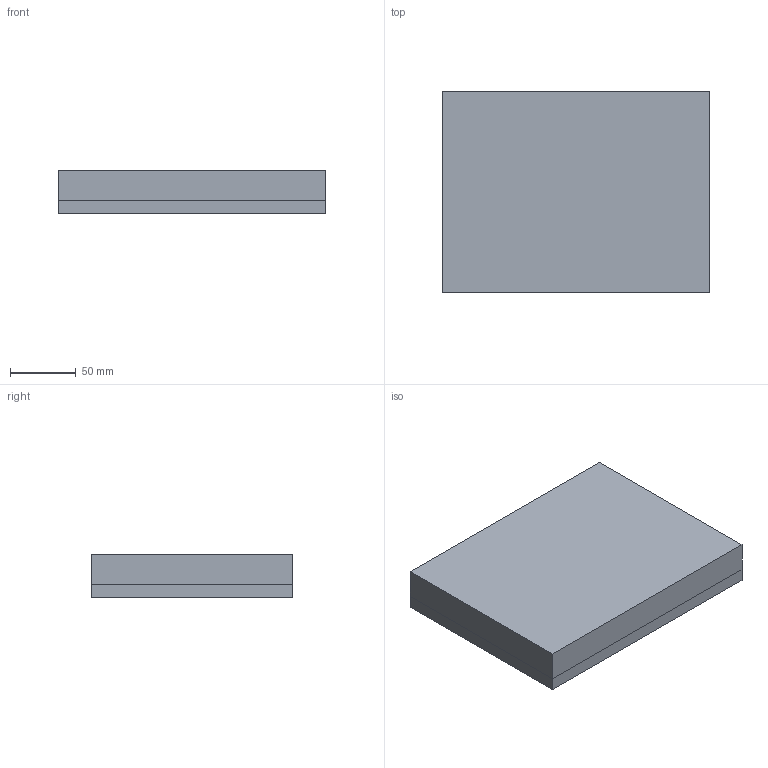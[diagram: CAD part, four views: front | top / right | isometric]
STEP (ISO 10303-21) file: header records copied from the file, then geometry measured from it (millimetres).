
FILE_DESCRIPTION(('CATIA V5 STEP Exchange'),'2;1');
FILE_NAME('C:\_Andres\UNIVERSIDAD\IQS\ASIGNATURAS\DAO\Controles\1920\c2\c2-Berta_Oriol_Jaume.stp','2020-02-10T15:37:44+00:00',('none'),('none'),'CATIA Version 5 Release 19 SP 3 (IN-10)','CATIA V5 STEP AP203','none');
FILE_SCHEMA(('CONFIG_CONTROL_DESIGN'));
Length unit declared in the file: millimetre
Products named in the file (1): c2-Berta_Oriol_Jaume
Bounding box: 203 x 153 x 33 mm (x, y, z)
Surface area: 209926.7 mm2
Topology: 3 solids, 3 shells, 103 faces, 232 edges, 128 vertices
Faces by surface type: cylinder 40, plane 27, bspline 24, sphere 12
Entity records: 3348 total; most frequent: CARTESIAN_POINT 1636, ORIENTED_EDGE 440, DIRECTION 224, EDGE_CURVE 164, EDGE_LOOP 110, ADVANCED_FACE 103, FACE_OUTER_BOUND 103, AXIS2_PLACEMENT_3D 96
